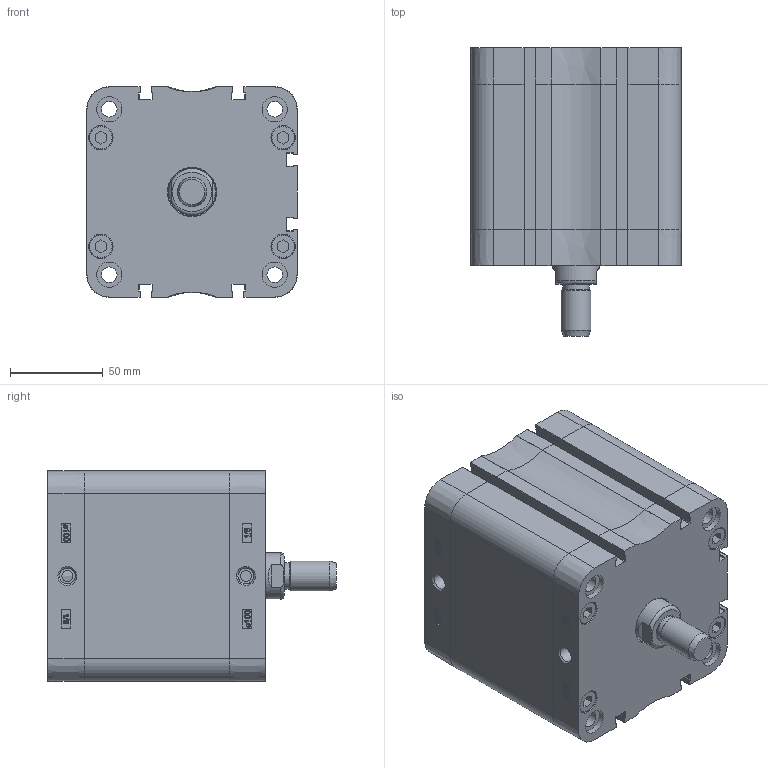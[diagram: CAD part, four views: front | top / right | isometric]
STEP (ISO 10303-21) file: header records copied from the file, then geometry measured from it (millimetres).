
FILE_DESCRIPTION((''),'2;1');
FILE_NAME('T:\Archivio Inventor\- CATALOGHI 2012\SERIE P - NUOVA\PDM\PDM100\PDM100.---.GS.M\PDM100.050.GS.M.stp','2013-02-05T11:41:52',('Administrator'),(''),'Autodesk Inventor 2012','Autodesk Inventor 2012','');
FILE_SCHEMA(('CONFIG_CONTROL_DESIGN'));
Length unit declared in the file: millimetre
Products named in the file (1): PDM100.050.GS.M
Bounding box: 113.3 x 155 x 113.3 mm (x, y, z)
Volume: 664821.4 mm3; surface area: 188493.6 mm2
Topology: 1 solids, 5 shells, 908 faces, 2136 edges, 1312 vertices
Faces by surface type: plane 371, bspline 226, cylinder 148, cone 81, torus 58, sphere 24
Full cylindrical faces by diameter (mm): 6 x2, 8.3 x4, 8.376 x8, 8.566 x2, 9.976 x4, 12 x1, 12.7 x8, 13.1 x8, 13.5 x8, 14 x1, 16 x1, 25 x1, 25.5 x1, 100 x1, 103.5 x1, 103.7 x1
Entity records: 29561 total; most frequent: CARTESIAN_POINT 9693, ORIENTED_EDGE 4030, DIRECTION 3400, EDGE_CURVE 2015, VERTEX_POINT 1291, AXIS2_PLACEMENT_3D 1208, EDGE_LOOP 1088, VECTOR 984
